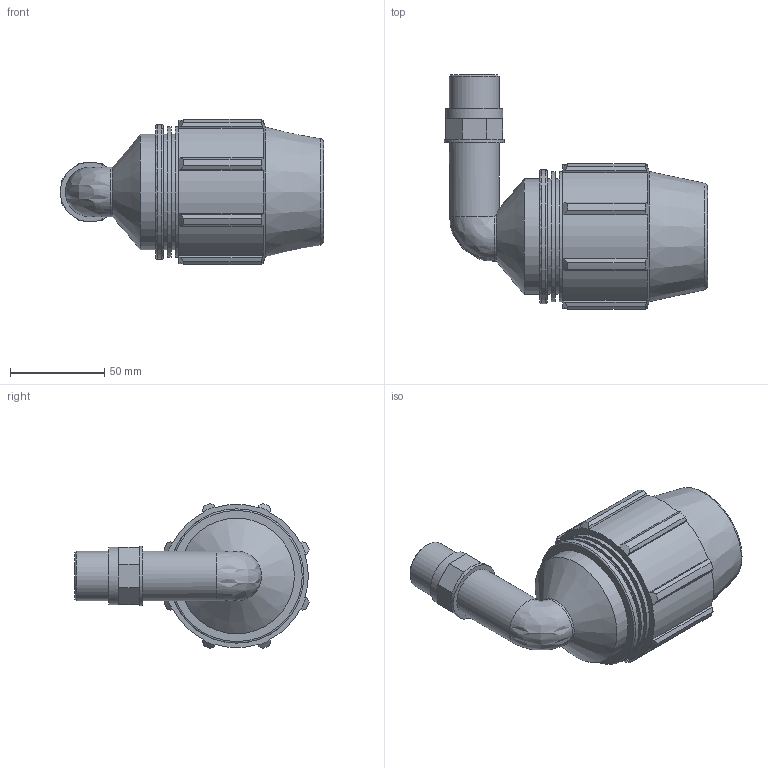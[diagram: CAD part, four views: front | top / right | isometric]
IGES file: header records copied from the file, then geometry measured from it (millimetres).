
Global section: file name: 077700040007__0777060400070A.ipt; native system: Autodesk Inventor 2015; preprocessor: unknown; author: KIM; date: 20170622.103100; units: millimetre
Bounding box: 139.86 x 124.58 x 77.16 mm (x, y, z)
Volume: 318339 mm3; surface area: 60678.6 mm2
Topology: 1 solids, 1 shells, 125 faces, 320 edges, 205 vertices
Faces by surface type: plane 76, cylinder 27, cone 12, revolution 9, bspline 1
Full cylindrical faces by diameter (mm): 26.441 x2, 30.407 x1, 31.729 x1, 61.5 x3, 69.2 x2, 71.34 x1
